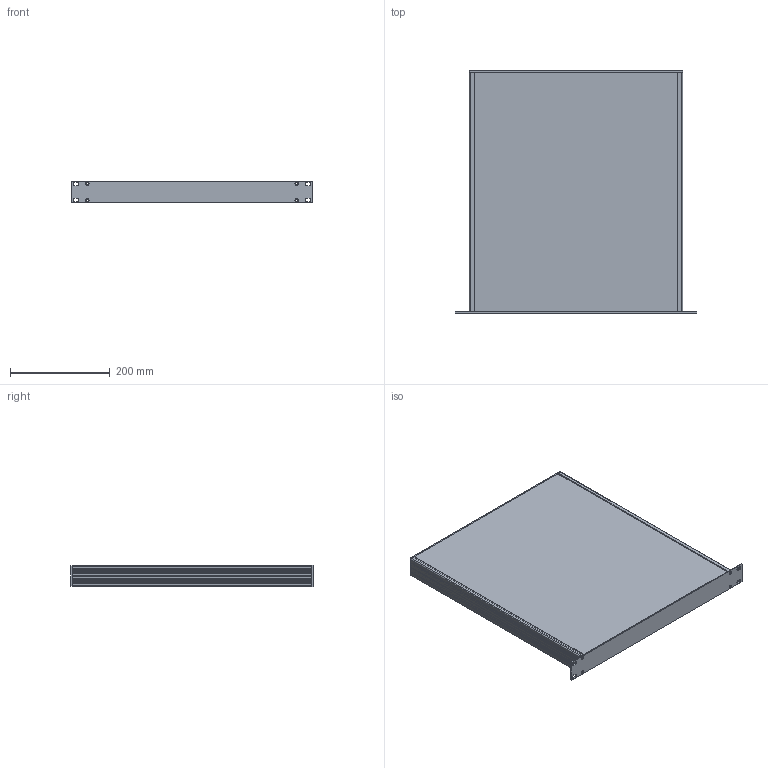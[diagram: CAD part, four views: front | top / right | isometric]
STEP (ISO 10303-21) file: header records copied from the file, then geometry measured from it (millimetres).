
FILE_DESCRIPTION(/* description */ (''),/* implementation_level */ '2;1');
FILE_NAME(/* name */ '//diskstation/Kunden/Gehäuse/Gehäuse/1HE/step/480.step',/* time_stamp */ '2022-02-17T15:22:48+01:00',/* author */ (''),/* organization */ (''),/* preprocessor_version */ 'ST-DEVELOPER v18.1',/* originating_system */ 'Autodesk Translation Framework v10.10.0.1391',/* authorisation */ '');
FILE_SCHEMA (('AUTOMOTIVE_DESIGN { 1 0 10303 214 3 1 1 }'));
Length unit declared in the file: millimetre
Products named in the file (7): 1HE Gehäuse mit Parameter (Seitenteilprofil); Frontplatte; Gehäuse; Seitenteilprofil; Rückplatte; Deckel; Bodenplatte
Assembly tree (7 placements, depth 3):
  1HE Gehäuse mit Parameter (Seitenteilprofil)
    Frontplatte
    Gehäuse
      Seitenteilprofil  x2
      Rückplatte
      Deckel
      Bodenplatte
Bounding box: 483 x 485 x 43.6 mm (x, y, z)
Volume: 1241382.7 mm3; surface area: 1053262.8 mm2
Topology: 6 solids, 6 shells, 252 faces, 712 edges, 472 vertices
Faces by surface type: plane 158, cylinder 86, cone 8
Full cylindrical faces by diameter (mm): 3 x4, 3.2 x8
Entity records: 5633 total; most frequent: CARTESIAN_POINT 956, DIRECTION 952, ORIENTED_EDGE 932, EDGE_CURVE 466, LINE 344, VECTOR 344, VERTEX_POINT 308, AXIS2_PLACEMENT_3D 304
